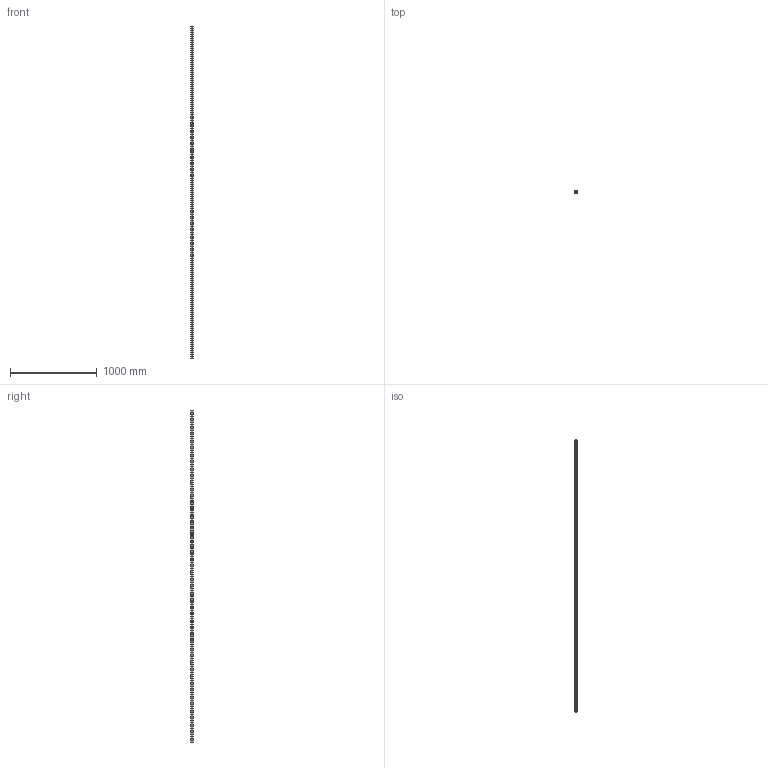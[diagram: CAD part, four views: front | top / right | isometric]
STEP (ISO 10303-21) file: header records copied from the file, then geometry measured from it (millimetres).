
FILE_DESCRIPTION((''),'2;1');
FILE_NAME('R160570431_3836_ASM','2018-08-08T15:44:18',('ac91sw'),(''),'CREO PARAMETRIC BY PTC INC, 2017260','CREO PARAMETRIC BY PTC INC, 2017260','');
FILE_SCHEMA(('CONFIG_CONTROL_DESIGN'));
Length unit declared in the file: millimetre
Products named in the file (3): R160570431_3836_ADK; R160570431_3836_1; R160570431_3836_ASM
Assembly tree (49 placements, depth 2):
  R160570431_3836_ASM
    R160570431_3836_ADK  x48
    R160570431_3836_1
Bounding box: 28 x 28.35 x 3836 mm (x, y, z)
Volume: 2285523.7 mm3; surface area: 517052 mm2
Topology: 49 solids, 49 shells, 464 faces, 954 edges, 636 vertices
Faces by surface type: cylinder 292, plane 172
Entity records: 8968 total; most frequent: DIRECTION 1724, CARTESIAN_POINT 1448, ORIENTED_EDGE 1344, AXIS2_PLACEMENT_3D 724, EDGE_CURVE 672, VERTEX_POINT 448, EDGE_LOOP 420, CIRCLE 396
